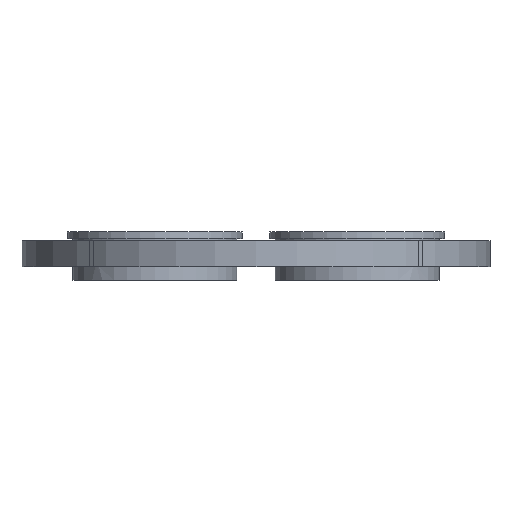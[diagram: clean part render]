
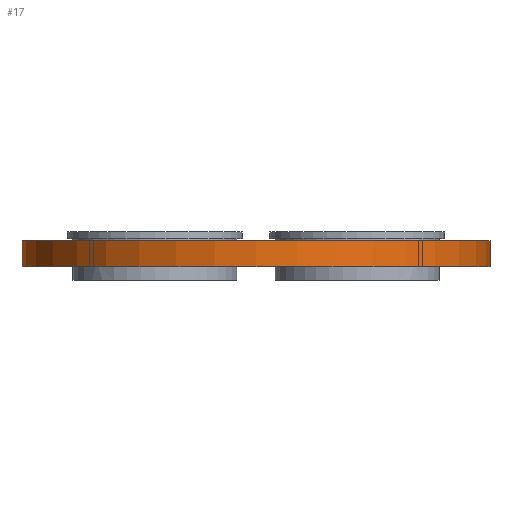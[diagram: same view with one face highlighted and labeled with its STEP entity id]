
A CAD part, front view. The second image highlights one B-rep face of the part: STEP entity #17.
In plain terms, the highlighted cylindrical face has radius 267.5 mm (diameter 535 mm), a full revolution.
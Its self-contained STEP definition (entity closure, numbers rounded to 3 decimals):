
#17 = ADVANCED_FACE('',(#18),#45,.T.);
#18 = FACE_BOUND('',#19,.T.);
#19 = EDGE_LOOP('',(#20,#29,#37,#44));
#20 = ORIENTED_EDGE('',*,*,#21,.F.);
#21 = EDGE_CURVE('',#22,#22,#24,.T.);
#22 = VERTEX_POINT('',#23);
#23 = CARTESIAN_POINT('',(267.5,0.,30.));
#24 = CIRCLE('',#25,267.5);
#25 = AXIS2_PLACEMENT_3D('',#26,#27,#28);
#26 = CARTESIAN_POINT('',(0.,0.,30.));
#27 = DIRECTION('',(0.,0.,1.));
#28 = DIRECTION('',(1.,0.,0.));
#29 = ORIENTED_EDGE('',*,*,#30,.F.);
#30 = EDGE_CURVE('',#31,#22,#33,.T.);
#31 = VERTEX_POINT('',#32);
#32 = CARTESIAN_POINT('',(267.5,0.,0.));
#33 = LINE('',#34,#35);
#34 = CARTESIAN_POINT('',(267.5,0.,0.));
#35 = VECTOR('',#36,1.);
#36 = DIRECTION('',(0.,0.,1.));
#37 = ORIENTED_EDGE('',*,*,#38,.T.);
#38 = EDGE_CURVE('',#31,#31,#39,.T.);
#39 = CIRCLE('',#40,267.5);
#40 = AXIS2_PLACEMENT_3D('',#41,#42,#43);
#41 = CARTESIAN_POINT('',(0.,0.,0.));
#42 = DIRECTION('',(0.,0.,1.));
#43 = DIRECTION('',(1.,0.,0.));
#44 = ORIENTED_EDGE('',*,*,#30,.T.);
#45 = CYLINDRICAL_SURFACE('',#46,267.5);
#46 = AXIS2_PLACEMENT_3D('',#47,#48,#49);
#47 = CARTESIAN_POINT('',(0.,0.,0.));
#48 = DIRECTION('',(0.,0.,1.));
#49 = DIRECTION('',(1.,0.,0.));
